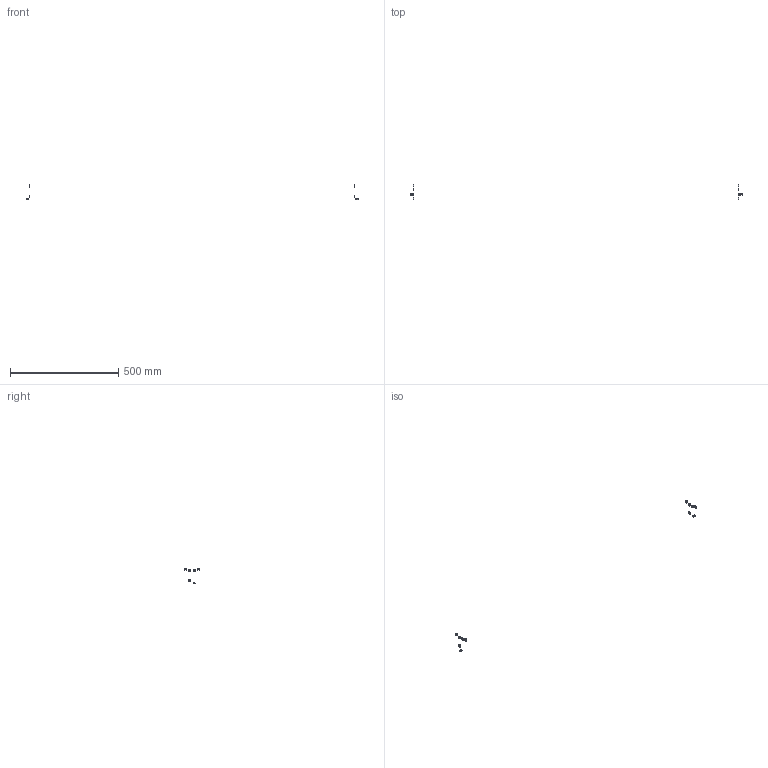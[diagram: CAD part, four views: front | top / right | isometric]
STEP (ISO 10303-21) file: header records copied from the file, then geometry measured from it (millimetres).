
FILE_DESCRIPTION(/* description */ (''),/* implementation_level */ '2;1');
FILE_NAME(/* name */ 'Y-08F3~1',/* time_stamp */ '2014-02-14T19:37:40+01:00',/* author */ (''),/* organization */ (''),/* preprocessor_version */ 'ST-DEVELOPER v14',/* originating_system */ '',/* authorisation */ '');
FILE_SCHEMA (('AUTOMOTIVE_DESIGN'));
Length unit declared in the file: millimetre
Products named in the file (2): Document; tslot nut, pre, M5
Assembly tree (6 placements, depth 2):
  Document
    tslot nut, pre, M5  x6
Bounding box: 1536 x 70 x 73.5 mm (x, y, z)
Volume: 3018.4 mm3; surface area: 4319.4 mm2
Topology: 12 solids, 12 shells, 144 faces, 360 edges, 240 vertices
Faces by surface type: plane 120, bspline 24
Entity records: 5360 total; most frequent: CARTESIAN_POINT 2291, B_SPLINE_CURVE_WITH_KNOTS 588, ORIENTED_EDGE 420, PCURVE 420, DEFINITIONAL_REPRESENTATION 420, SURFACE_CURVE 210, EDGE_CURVE 210, VERTEX_POINT 140
